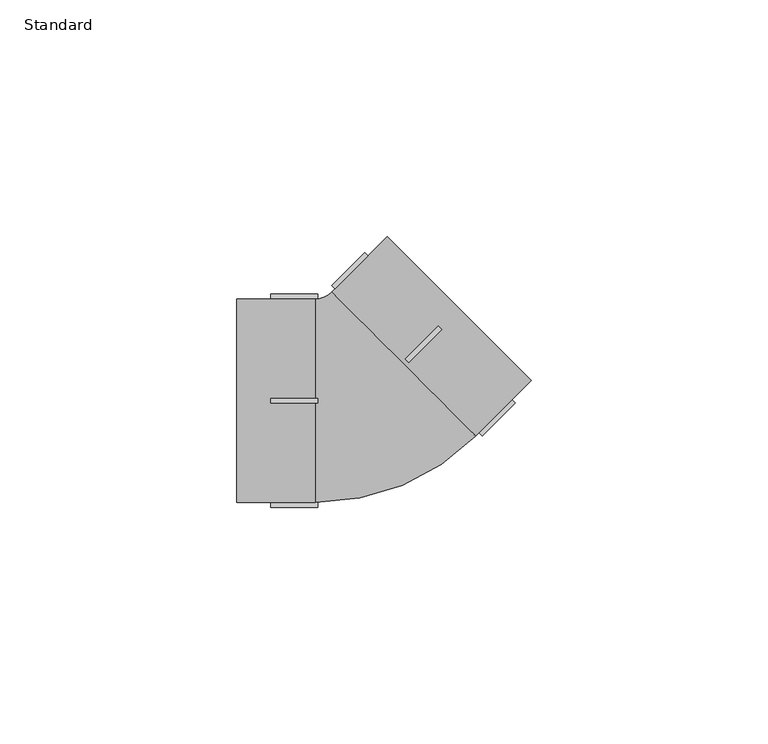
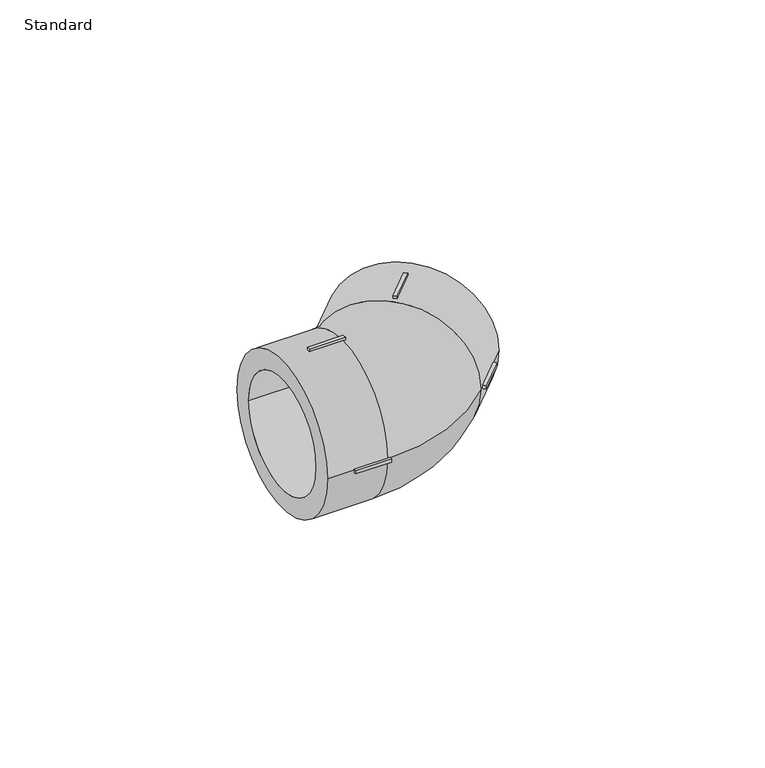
"""IFC4 building model written with IfcOpenShell, lengths in millimetres: pipe fitting geometry, EGB_VASEN_ PPR_Codo 90 WXR200_Codo 45 WXR220  : Standard."""

from ifc_helpers import new_model, si_unit, point, frame, origin, place, context, project, spatial, polyline, circle_curve, ellipse_curve, trimmed, outline, extrude, source, transform, mapped, element, save
from ifc_brep_helpers import plane_surface, cylinder_surface, revolved_surface, advanced_brep


def standard_e9eb4195(model_context):
    return source(origin(), model_context, "Body", "SolidModel", [
        advanced_brep(
        [(-27.5, -21.5, 0.0), (-27.5, 21.5, 0.0), (-27.5, -16.0, 0.0), (-27.5, 16.0, 0.0), (-10.9055916, -21.5, 0.0), (-10.9055916, 21.5, 0.0), (-10.9055916, -16.0, 0.0), (-10.9055916, 16.0, 0.0), (19.0251263, -3.6022907, 0.0), (-3.6022907, 19.0251263, 0.0), (-7.491378, 22.9142136, 0.0), (22.9142136, -7.491378, 0.0), (34.6482323, 4.2426407, 0.0), (4.2426407, 34.6482323, 0.0), (30.759145, 8.131728, 0.0), (8.131728, 30.759145, 0.0)],
        [
            (0, 1, circle_curve(frame((-27.5, 0.0, 0.0), z_axis=(-1.0, 0.0, 0.0), x_axis=(0.0, 1.0, 0.0)), 21.5)),
            (1, 0, circle_curve(frame((-27.5, 0.0, 0.0), z_axis=(-1.0, 0.0, 0.0), x_axis=(0.0, 1.0, 0.0)), 21.5)),
            (2, 3, circle_curve(frame((-27.5, 0.0, 0.0), z_axis=(1.0, 0.0, 0.0), x_axis=(0.0, 1.0, 0.0)), 16.0)),
            (3, 2, circle_curve(frame((-27.5, 0.0, 0.0), z_axis=(1.0, 0.0, 0.0), x_axis=(0.0, 1.0, 0.0)), 16.0)),
            (0, 4),
            (4, 5, circle_curve(frame((-10.9055916, 0.0, 0.0), z_axis=(-1.0, 0.0, 0.0), x_axis=(0.0, 1.0, 0.0)), 21.5)),
            (5, 1),
            (5, 4, circle_curve(frame((-10.9055916, 0.0, 0.0), z_axis=(-1.0, 0.0, 0.0), x_axis=(0.0, 1.0, 0.0)), 21.5)),
            (2, 6),
            (6, 7, circle_curve(frame((-10.9055916, 0.0, 0.0), z_axis=(1.0, 0.0, 0.0), x_axis=(0.0, 1.0, 0.0)), 16.0)),
            (7, 3),
            (7, 6, circle_curve(frame((-10.9055916, 0.0, 0.0), z_axis=(1.0, 0.0, 0.0), x_axis=(0.0, 1.0, 0.0)), 16.0)),
            (8, 9, circle_curve(frame((7.7114178, 7.7114178, 0.0), z_axis=(0.707106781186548, 0.7071067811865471, 0.0), x_axis=(-0.7071067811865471, 0.707106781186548, 0.0)), 16.0)),
            (9, 8, circle_curve(frame((7.7114178, 7.7114178, 0.0), z_axis=(0.707106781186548, 0.7071067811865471, 0.0), x_axis=(-0.7071067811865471, 0.707106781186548, 0.0)), 16.0)),
            (10, 5, circle_curve(frame((-10.9055916, 26.3284271, 0.0), z_axis=(0.0, 0.0, -1.0), x_axis=(0.0, -1.0, 0.0)), 4.8284271)),
            (4, 11, circle_curve(frame((-10.9055916, 26.3284271, 0.0), z_axis=(0.0, 0.0, 1.0), x_axis=(0.0, -1.0, 0.0)), 47.8284271)),
            (11, 10, circle_curve(frame((7.7114178, 7.7114178, 0.0), z_axis=(-0.7071067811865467, -0.7071067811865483, 0.0), x_axis=(-0.7071067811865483, 0.7071067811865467, 0.0)), 21.5)),
            (10, 11, circle_curve(frame((7.7114178, 7.7114178, 0.0), z_axis=(-0.7071067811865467, -0.7071067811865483, 0.0), x_axis=(-0.7071067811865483, 0.7071067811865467, 0.0)), 21.5)),
            (12, 13, circle_curve(frame((19.4454365, 19.4454365, 0.0), z_axis=(0.707106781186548, 0.7071067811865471, 0.0), x_axis=(-0.7071067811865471, 0.707106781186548, 0.0)), 21.5)),
            (13, 12, circle_curve(frame((19.4454365, 19.4454365, 0.0), z_axis=(0.707106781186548, 0.7071067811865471, 0.0), x_axis=(-0.7071067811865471, 0.707106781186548, 0.0)), 21.5)),
            (14, 15, circle_curve(frame((19.4454365, 19.4454365, 0.0), z_axis=(-0.707106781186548, -0.7071067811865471, 0.0), x_axis=(-0.7071067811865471, 0.707106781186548, 0.0)), 16.0)),
            (15, 14, circle_curve(frame((19.4454365, 19.4454365, 0.0), z_axis=(-0.707106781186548, -0.7071067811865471, 0.0), x_axis=(-0.7071067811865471, 0.707106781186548, 0.0)), 16.0)),
            (13, 10),
            (11, 12),
            (15, 9),
            (8, 14),
        ],
        [
            plane_surface(frame((-27.5, 0.0, 0.0), z_axis=(-1.0, 0.0, 0.0), x_axis=(0.0, 0.0, 1.0))),
            cylinder_surface(frame((-27.5, 0.0, 0.0), z_axis=(-1.0, 0.0, 0.0), x_axis=(0.0, 1.0, 0.0)), 21.5),
            revolved_surface(polyline([(-10.905591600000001, 16.0, 0.0), (-27.5, 16.0, 0.0)]), (-27.5, 0.0, 0.0), (1.0, 0.0, 0.0)),
            plane_surface(frame((-10.9055916, 0.0, 0.0), z_axis=(-1.0, 0.0, 0.0), x_axis=(0.0, 0.0, 1.0))),
            plane_surface(frame((7.7114178, 7.7114178, 0.0), z_axis=(0.7071067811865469, 0.7071067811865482, 0.0), x_axis=(0.0, 0.0, 1.0))),
            revolved_surface(trimmed(ellipse_curve(frame((-10.9055916, 0.0, 0.0), z_axis=(-1.0, 0.0, 0.0), x_axis=(0.0, 1.0, 0.0)), 21.5, 21.5), [point((-10.9055916, -21.5, 0.0))], [point((-10.9055916, 21.5, 0.0))], True, "CARTESIAN"), (-10.9055916, 26.3284271, 0.0), (0.0, 0.0, 1.0)),
            revolved_surface(trimmed(ellipse_curve(frame((-10.9055916, 0.0, 0.0), z_axis=(-1.0, 0.0, 0.0), x_axis=(0.0, 1.0, 0.0)), 21.5, 21.5), [point((-10.9055916, 21.5, 0.0))], [point((-10.9055916, -21.5, 0.0))], True, "CARTESIAN"), (-10.9055916, 26.3284271, 0.0), (0.0, 0.0, 1.0)),
            plane_surface(frame((19.4454365, 19.4454365, 0.0), z_axis=(0.707106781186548, 0.7071067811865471, 0.0), x_axis=(0.0, 0.0, 1.0))),
            cylinder_surface(frame((7.7114178, 7.7114178, 0.0), z_axis=(-0.707106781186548, -0.7071067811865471, 0.0), x_axis=(-0.7071067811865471, 0.707106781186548, 0.0)), 21.5),
            revolved_surface(polyline([(8.131728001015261, 30.759144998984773, 0.0), (-3.60229069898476, 19.025126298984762, 0.0)]), (7.7114178, 7.7114178, 0.0), (0.707106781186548, 0.7071067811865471, 0.0)),
        ],
        [
            (0, [[1, 2], [3, 4]]),
            (1, [[-1, 5, 6, 7]]),
            (1, [[-2, -7, 8, -5]]),
            (2, [[-3, 9, 10, 11]]),
            (2, [[-4, -11, 12, -9]]),
            (3, [[-10, -12]]),
            (4, [[13, 14]]),
            (5, [[15, -6, 16, 17]]),
            (6, [[-15, 18, -16, -8]]),
            (7, [[19, 20], [21, 22]]),
            (8, [[-20, 23, -17, 24]]),
            (8, [[-19, -24, -18, -23]]),
            (9, [[-22, 25, -13, 26]]),
            (9, [[-21, -26, -14, -25]]),
        ],
    ),
        extrude(outline(polyline([(8.7720779, 8.0649712), (8.0649712, 8.7720779), (15.0653283, 15.7724351), (15.7724351, 15.0653283), (8.7720779, 8.0649712)])), frame((0.0, 0.0, 20.5), z_axis=(0.0, 0.0, 1.0), x_axis=(1.0, 0.0, 0.0)), (0.0, 0.0, 1.0), 2.0),
        extrude(outline(polyline([(-6.0771645, 22.9142136), (-7.491378, 24.3284271), (-0.4910209, 31.3287843), (0.9231927, 29.9145707), (-6.0771645, 22.9142136)])), frame((0.0, 0.0, -0.5), z_axis=(0.0, 0.0, 1.0), x_axis=(1.0, 0.0, 0.0)), (0.0, 0.0, 1.0), 1.0),
        extrude(outline(polyline([(24.3284271, -7.491378), (22.9142136, -6.0771645), (29.9145707, 0.9231927), (31.3287843, -0.4910209), (24.3284271, -7.491378)])), frame((0.0, 0.0, -0.5), z_axis=(0.0, 0.0, 1.0), x_axis=(1.0, 0.0, 0.0)), (0.0, 0.0, 1.0), 1.0),
        extrude(outline(polyline([(8.7720779, 8.0649712), (8.0649712, 8.7720779), (15.0653283, 15.7724351), (15.7724351, 15.0653283), (8.7720779, 8.0649712)])), frame((0.0, 0.0, -22.5), z_axis=(0.0, 0.0, 1.0), x_axis=(1.0, 0.0, 0.0)), (0.0, 0.0, 1.0), 2.0),
        extrude(outline(polyline([(-10.4055916, 0.5), (-10.4055916, -0.5), (-20.3055916, -0.5), (-20.3055916, 0.5), (-10.4055916, 0.5)])), frame((0.0, 0.0, 20.5), z_axis=(0.0, 0.0, 1.0), x_axis=(1.0, 0.0, 0.0)), (0.0, 0.0, 1.0), 2.0),
        extrude(outline(polyline([(-10.4055916, 0.5), (-10.4055916, -0.5), (-20.3055916, -0.5), (-20.3055916, 0.5), (-10.4055916, 0.5)])), frame((0.0, 0.0, -22.5), z_axis=(0.0, 0.0, 1.0), x_axis=(1.0, 0.0, 0.0)), (0.0, 0.0, 1.0), 2.0),
        extrude(outline(polyline([(-10.4055916, 22.5), (-10.4055916, 20.5), (-20.3055916, 20.5), (-20.3055916, 22.5), (-10.4055916, 22.5)])), frame((0.0, 0.0, -0.5), z_axis=(0.0, 0.0, 1.0), x_axis=(1.0, 0.0, 0.0)), (0.0, 0.0, 1.0), 1.0),
        extrude(outline(polyline([(-10.4055916, -20.5), (-10.4055916, -22.5), (-20.3055916, -22.5), (-20.3055916, -20.5), (-10.4055916, -20.5)])), frame((0.0, 0.0, -0.5), z_axis=(0.0, 0.0, 1.0), x_axis=(1.0, 0.0, 0.0)), (0.0, 0.0, 1.0), 1.0),
    ])


if __name__ == "__main__":
    model = new_model("IFC4")
    model_context = context("Model", 3, world=origin())
    ifc_project = project(units=[si_unit("LENGTHUNIT", "METRE", prefix="MILLI")], contexts=[model_context])
    site = spatial("IfcSite", under=ifc_project)
    building = spatial("IfcBuilding", under=site)
    placement = place(None, origin())
    standard_shape = standard_e9eb4195(model_context)
    element("IfcPipeFitting", 1, ObjectType="EGB_VASEN_ PPR_Codo 90 WXR200_Codo 45 WXR220  : Standard", at=placement, inside=building, context=model_context, shape_type="MappedRepresentation", body=[
        mapped(standard_shape, transform((0.0, 0.0, 0.0), x_axis=(1.0, 0.0, 0.0), y_axis=(0.0, 1.0, 0.0), z_axis=(0.0, 0.0, 1.0))),
    ])
    save(model, "model.ifc")
